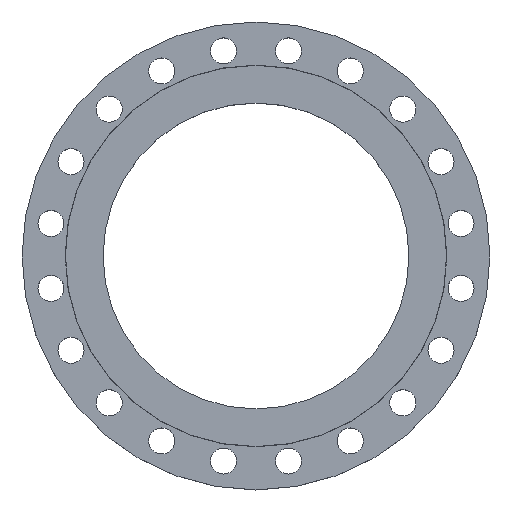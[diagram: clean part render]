
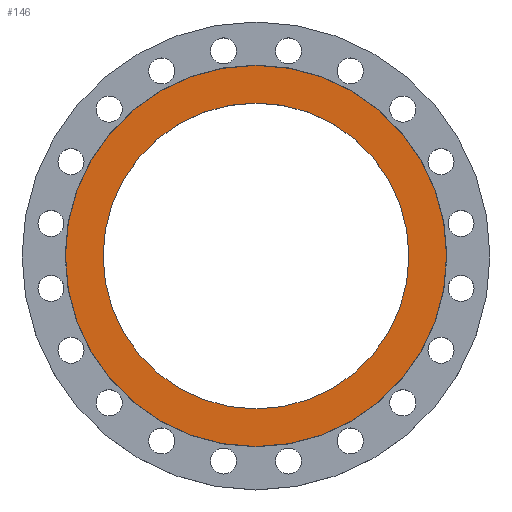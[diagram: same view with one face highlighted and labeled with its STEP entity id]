
A CAD part, top view. The second image highlights one B-rep face of the part: STEP entity #146.
In plain terms, the highlighted planar face has unit normal (0, 0, 1).
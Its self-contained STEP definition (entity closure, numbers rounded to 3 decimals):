
#14 = DIRECTION ( 'NONE',  ( 1., 0., 0. ) ) ;
#97 = AXIS2_PLACEMENT_3D ( 'NONE', #1070, #1662, #328 ) ;
#146 = ADVANCED_FACE ( 'NONE', ( #361, #966 ), #1536, .T. ) ;
#155 = DIRECTION ( 'NONE',  ( 1., 0., 0. ) ) ;
#215 = CARTESIAN_POINT ( 'NONE',  ( 0., 0., 0. ) ) ;
#301 = VERTEX_POINT ( 'NONE', #887 ) ;
#328 = DIRECTION ( 'NONE',  ( -1., 0., 0. ) ) ;
#361 = FACE_BOUND ( 'NONE', #1335, .T. ) ;
#384 = CARTESIAN_POINT ( 'NONE',  ( 0., 0., 0. ) ) ;
#621 = AXIS2_PLACEMENT_3D ( 'NONE', #215, #815, #1398 ) ;
#749 = VERTEX_POINT ( 'NONE', #1191 ) ;
#781 = CARTESIAN_POINT ( 'NONE',  ( 0., 0., 0. ) ) ;
#815 = DIRECTION ( 'NONE',  ( 0., 0., 1. ) ) ;
#839 = EDGE_CURVE ( 'NONE', #301, #1305, #1354, .T. ) ;
#878 = CARTESIAN_POINT ( 'NONE',  ( -307.5, 0., 0. ) ) ;
#887 = CARTESIAN_POINT ( 'NONE',  ( -246.752, 0., 0. ) ) ;
#914 = CARTESIAN_POINT ( 'NONE',  ( 0., 0., 0. ) ) ;
#966 = FACE_OUTER_BOUND ( 'NONE', #1590, .T. ) ;
#979 = AXIS2_PLACEMENT_3D ( 'NONE', #914, #1475, #155 ) ;
#983 = CIRCLE ( 'NONE', #979, 246.752 ) ;
#985 = DIRECTION ( 'NONE',  ( 0., 0., -1. ) ) ;
#1019 = EDGE_CURVE ( 'NONE', #1578, #749, #1666, .T. ) ;
#1039 = CIRCLE ( 'NONE', #97, 307.5 ) ;
#1070 = CARTESIAN_POINT ( 'NONE',  ( 0., 0., 0. ) ) ;
#1191 = CARTESIAN_POINT ( 'NONE',  ( 307.5, 0., 0. ) ) ;
#1244 = EDGE_CURVE ( 'NONE', #1305, #301, #983, .T. ) ;
#1305 = VERTEX_POINT ( 'NONE', #1350 ) ;
#1335 = EDGE_LOOP ( 'NONE', ( #1596, #1650 ) ) ;
#1348 = EDGE_CURVE ( 'NONE', #749, #1578, #1039, .T. ) ;
#1350 = CARTESIAN_POINT ( 'NONE',  ( 246.752, 0., 0. ) ) ;
#1354 = CIRCLE ( 'NONE', #1411, 246.752 ) ;
#1362 = DIRECTION ( 'NONE',  ( 0., 0., 1. ) ) ;
#1398 = DIRECTION ( 'NONE',  ( 1., 0., 0. ) ) ;
#1411 = AXIS2_PLACEMENT_3D ( 'NONE', #781, #1362, #14 ) ;
#1475 = DIRECTION ( 'NONE',  ( 0., 0., 1. ) ) ;
#1536 = PLANE ( 'NONE',  #621 ) ;
#1561 = DIRECTION ( 'NONE',  ( -1., 0., 0. ) ) ;
#1578 = VERTEX_POINT ( 'NONE', #878 ) ;
#1590 = EDGE_LOOP ( 'NONE', ( #1768, #1858 ) ) ;
#1596 = ORIENTED_EDGE ( 'NONE', *, *, #1244, .F. ) ;
#1650 = ORIENTED_EDGE ( 'NONE', *, *, #839, .F. ) ;
#1662 = DIRECTION ( 'NONE',  ( 0., 0., -1. ) ) ;
#1666 = CIRCLE ( 'NONE', #1692, 307.5 ) ;
#1692 = AXIS2_PLACEMENT_3D ( 'NONE', #384, #985, #1561 ) ;
#1768 = ORIENTED_EDGE ( 'NONE', *, *, #1019, .F. ) ;
#1858 = ORIENTED_EDGE ( 'NONE', *, *, #1348, .F. ) ;
